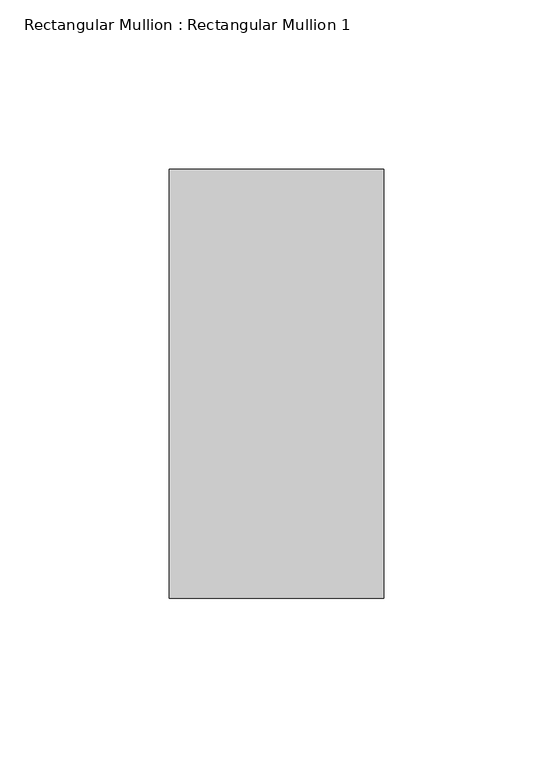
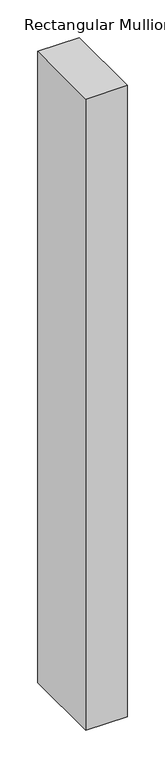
"""IFC4 building model written with IfcOpenShell, lengths in millimetres: member geometry, Rectangular Mullion : Rectangular Mullion 1."""

from ifc_helpers import new_model, si_unit, frame, origin, place, context, project, spatial, polyline, outline, extrude, source, transform, mapped, element, save


def rectangular_mullion_rectangular_mullion_1_e4e82bb0(model_context):
    return source(origin(), model_context, "Body", "SweptSolid", [
        extrude(outline(polyline([(0.0, 63.5), (0.0, -63.5), (-63.5, -63.5), (-63.5, 63.5), (0.0, 63.5)])), frame((0.0, 0.0, -1021.4428571), z_axis=(0.0, 0.0, 1.0), x_axis=(1.0, 0.0, 0.0)), (0.0, 0.0, 1.0), 1021.4428571),
    ])


if __name__ == "__main__":
    model = new_model("IFC4")
    model_context = context("Model", 3, world=origin())
    ifc_project = project(units=[si_unit("LENGTHUNIT", "METRE", prefix="MILLI")], contexts=[model_context])
    site = spatial("IfcSite", under=ifc_project)
    building = spatial("IfcBuilding", under=site)
    placement = place(None, origin())
    rectangular_mullion_rectangular_mullion_1_shape = rectangular_mullion_rectangular_mullion_1_e4e82bb0(model_context)
    element("IfcMember", 1, ObjectType="Rectangular Mullion : Rectangular Mullion 1", at=placement, inside=building, context=model_context, shape_type="MappedRepresentation", body=[
        mapped(rectangular_mullion_rectangular_mullion_1_shape, transform((0.0, 0.0, 0.0), x_axis=(1.0, 0.0, 0.0), y_axis=(0.0, 1.0, 0.0), z_axis=(0.0, 0.0, 1.0))),
    ])
    save(model, "model.ifc")
